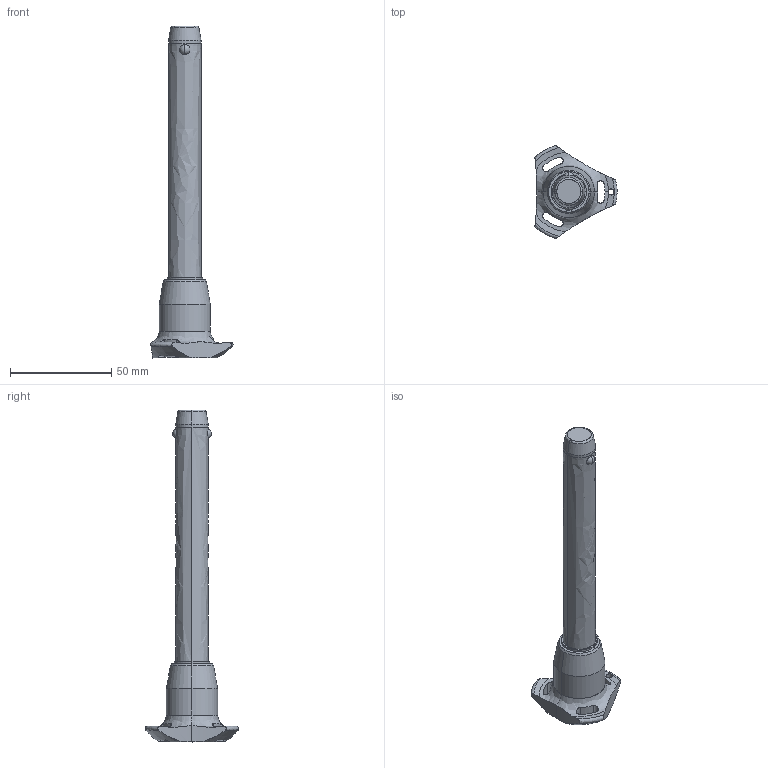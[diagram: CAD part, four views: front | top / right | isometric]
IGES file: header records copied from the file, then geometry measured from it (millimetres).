
Start section: SolidWorks IGES file using analytic representation for surfaces
Global section: file name: C:\Users\ianosborn\Desktop\QR1726_v2\QR1726_v2_20251115_IGES\QR1726.M16-110-T.igs; native system: SolidWorks 2019; preprocessor: SolidWorks 2019; author: IanOsborn; date: 251113.112149; units: millimetre
Bounding box: 40.5 x 45.88 x 163.7 mm (x, y, z)
Surface area: 12122.2 mm2 (no closed solid volume)
Topology: 0 solids, 0 shells, 68 faces, 1402 edges, 1398 vertices
Faces by surface type: revolution 52, bspline 16
